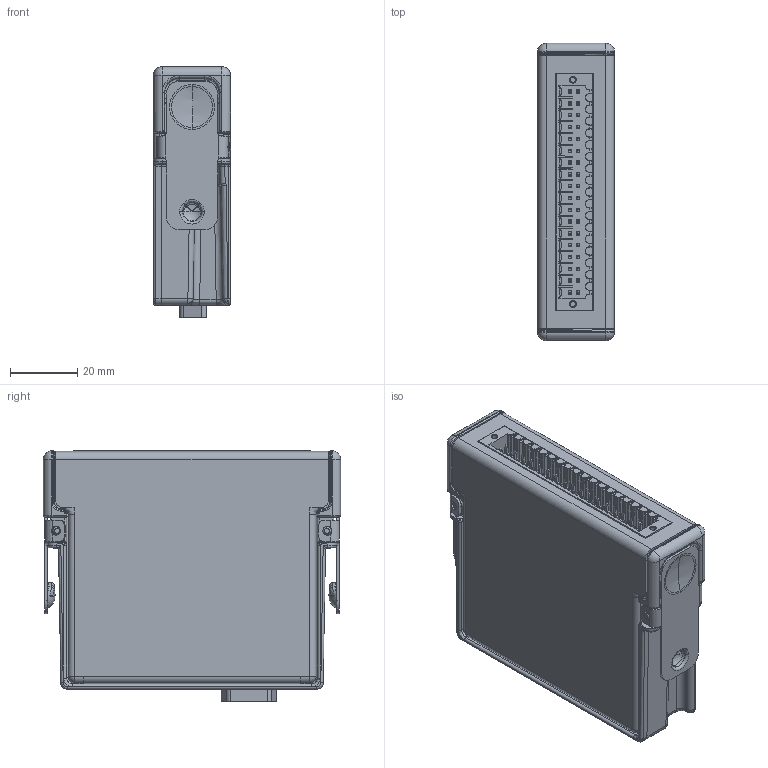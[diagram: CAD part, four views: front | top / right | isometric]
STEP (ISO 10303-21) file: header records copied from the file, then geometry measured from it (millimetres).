
FILE_DESCRIPTION((''),'2;1');
FILE_NAME('CU_36POS_WEID_SPRINGTERM_NEW','2016-10-26T',('dkendric'),(''),'CREO PARAMETRIC BY PTC INC, 2015380','CREO PARAMETRIC BY PTC INC, 2015380','');
FILE_SCHEMA(('CONFIG_CONTROL_DESIGN'));
Products named in the file (1): CU_36POS_WEID_SPRINGTERM_NEW
Bounding box: 22.86 x 88.11 x 74.24 mm (x, y, z)
Volume: 49640.5 mm3; surface area: 58829.1 mm2
Topology: 9 solids, 9 shells, 3175 faces, 8492 edges, 5282 vertices
Faces by surface type: plane 1963, cylinder 720, bspline 365, torus 56, sphere 39, cone 26, extrusion 6
Entity records: 117728 total; most frequent: CARTESIAN_POINT 41379, ORIENTED_EDGE 16840, DIRECTION 14440, EDGE_CURVE 8420, VECTOR 5664, LINE 5658, VERTEX_POINT 5320, AXIS2_PLACEMENT_3D 4388
